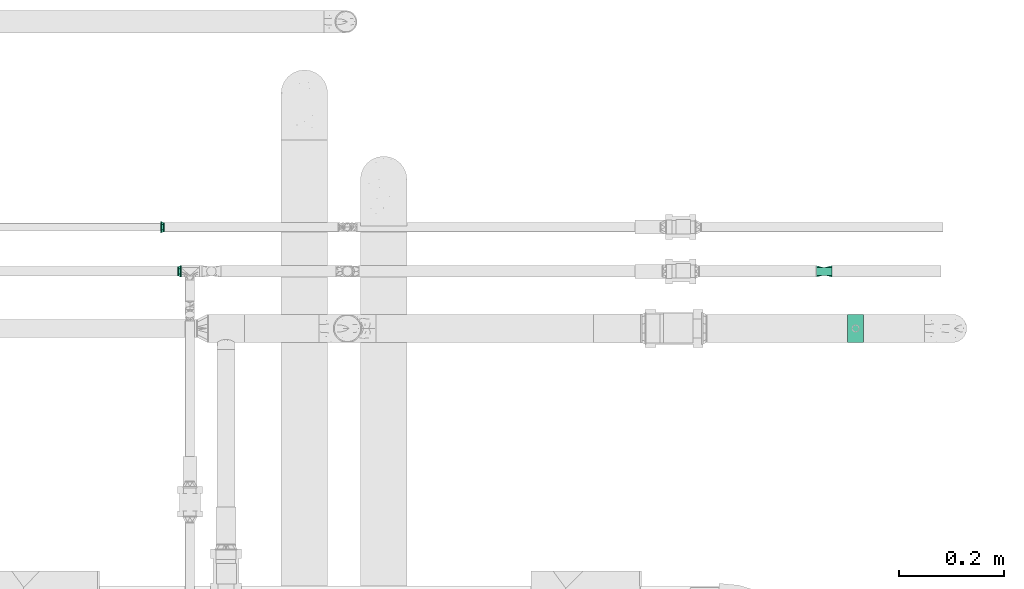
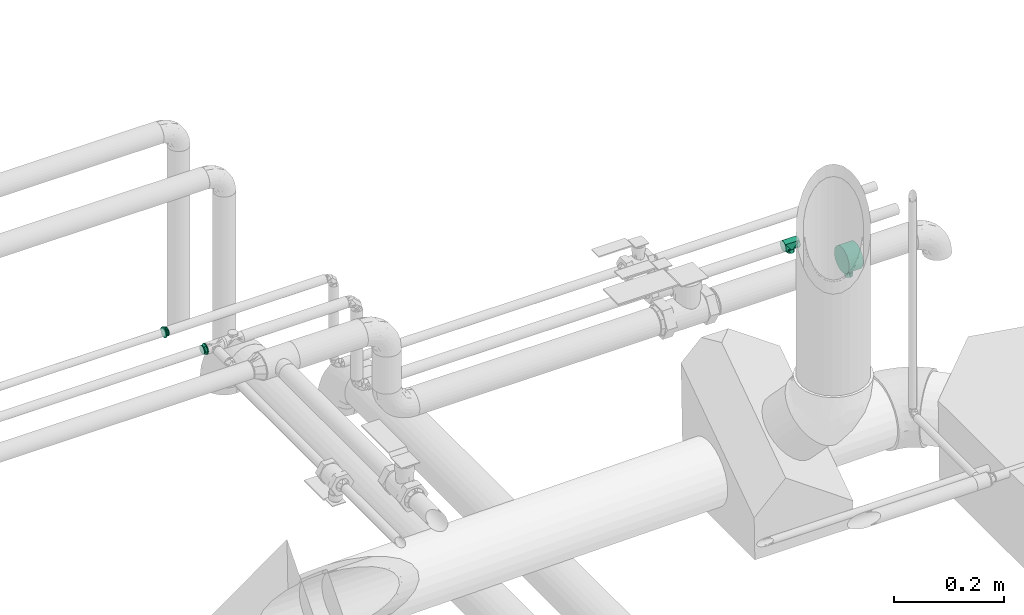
# One storey, part 152 of 156: 4 flow fittings.
"""IFC2X3 building model written with IfcOpenShell, lengths in millimetres."""

from ifc_helpers import new_model, entity, si_unit, converted_unit, derived_unit, direction, frame, origin_with_axes, place, context, subcontext, project, spatial, open_shell, surface_model, source, transform, mapped, type_object, element, save


model = new_model("IFC2X3")

# Units and contexts
model_context = context("Model", 3, precision=0.01, world=frame((0.0, 4.29681676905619e-09, 0.0)), true_north=direction((4.01073788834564e-13, 1.0)))
plan_context = context("Plan", 3, precision=0.01, world=frame((0.0, 4.29681676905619e-09, 0.0)), true_north=direction((4.01073788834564e-13, 1.0)))
body_context = subcontext(model_context, "Body", "Model", "MODEL_VIEW")
ifc_project = project(units=[converted_unit("PLANEANGLEUNIT", "DEGREE", entity("IfcPositiveLengthMeasure", 0.0174532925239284), si_unit("PLANEANGLEUNIT", "RADIAN"), dimensions=[0, 0, 0, 0, 0, 0, 0]), si_unit("AREAUNIT", "SQUARE_METRE"), si_unit("LENGTHUNIT", "METRE", prefix="MILLI"), si_unit("MASSUNIT", "GRAM", prefix="KILO"), si_unit("POWERUNIT", "WATT"), si_unit("PRESSUREUNIT", "PASCAL", prefix="KILO"), si_unit("FORCEUNIT", "NEWTON", prefix="KILO"), si_unit("ELECTRICVOLTAGEUNIT", "VOLT"), si_unit("ELECTRICCURRENTUNIT", "AMPERE"), si_unit("THERMODYNAMICTEMPERATUREUNIT", "DEGREE_CELSIUS"), si_unit("TIMEUNIT", "SECOND"), si_unit("VOLUMEUNIT", "CUBIC_METRE"), derived_unit("LINEARVELOCITYUNIT", [(si_unit("LENGTHUNIT", "METRE"), 1), (si_unit("TIMEUNIT", "SECOND"), -1)]), derived_unit("VOLUMETRICFLOWRATEUNIT", [(si_unit("VOLUMEUNIT", "CUBIC_METRE"), 1), (si_unit("TIMEUNIT", "SECOND"), -1)]), derived_unit("THERMALTRANSMITTANCEUNIT", [(si_unit("POWERUNIT", "WATT"), 1), (si_unit("THERMODYNAMICTEMPERATUREUNIT", "KELVIN"), -1), (si_unit("AREAUNIT", "SQUARE_METRE"), -1)]), derived_unit("SOUNDPRESSUREUNIT", [(si_unit("PRESSUREUNIT", "PASCAL"), 1)])], contexts=[model_context, plan_context])

# Site, building, storey
site_placement = place(None, frame((0.0, -4.29681676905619e-09, 0.0), z_axis=(0.0, 0.0, 1.0), x_axis=(1.0, 0.0, 0.0)))
site = spatial("IfcSite", under=ifc_project, at=site_placement, CompositionType="ELEMENT")
building_placement = place(site_placement, frame((0.0, 4.29681676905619e-09, 0.0), z_axis=(0.0, 0.0, 1.0), x_axis=(1.0, 0.0, 0.0)))
building = spatial("IfcBuilding", under=site, at=building_placement, Name="mc-building", CompositionType="ELEMENT")
storey_placement = place(building_placement, frame((0.0, 0.0, 205200.0), z_axis=(0.0, 0.0, 1.0), x_axis=(1.0, 0.0, 0.0)))
storey = spatial("IfcBuildingStorey", under=building, at=storey_placement, Name="Nivå D + 1,2 m", CompositionType="ELEMENT", Elevation=205200.0)

# Flow fittings
pipe_fitting_type_1 = type_object("IfcPipeFittingType", Name="magi_pipe_fe_reducer_centric_short_001", PredefinedType="TRANSITION")
shared_shape_1 = source(origin_with_axes(), body_context, "Body", "SurfaceModel", [
    surface_model("IfcShellBasedSurfaceModel", [(-2.0, 2.84701, 10.62518), (-2.0, -2.84701, 10.62518), (-2.0, 0.0, 11.0), (-2.0, 7.77817, 7.77817), (-2.0, 5.5, 9.52628), (-2.0, 9.52628, 5.5), (-2.0, 10.62518, 2.84701), (-2.0, -7.77817, 7.77817), (-2.0, -5.5, 9.52628), (-2.0, -10.62518, 2.84701), (-2.0, -9.52628, 5.5), (-2.0, -11.0, 0.0), (-2.0, 10.62518, -2.84701), (-2.0, -7.77817, -7.77817), (-2.0, 7.77817, -7.77817), (-2.0, 9.52628, -5.5), (-2.0, 5.5, -9.52628), (-2.0, 2.84701, -10.62518), (-2.0, -10.62518, -2.84701), (-2.0, -9.52628, -5.5), (-2.0, -2.84701, -10.62518), (-2.0, -5.5, -9.52628), (-2.0, 0.0, -11.0), (-2.0, 11.0, 0.0), (0.0, 2.84701, -10.62518), (0.0, 5.5, -9.52628), (0.0, 7.77817, -7.77817), (0.0, 9.52628, -5.5), (0.0, 10.62518, -2.84701), (0.0, -7.77817, -7.77817), (0.0, 2.84701, 10.62518), (0.0, -2.84701, -10.62518), (0.0, 0.0, -11.0), (0.0, -5.5, -9.52628), (0.0, -10.62518, -2.84701), (0.0, -9.52628, -5.5), (0.0, -11.0, 0.0), (0.0, 11.0, 0.0), (0.0, 10.62518, 2.84701), (0.0, 9.52628, 5.5), (0.0, 7.77817, 7.77817), (0.0, 0.0, 11.0), (0.0, 5.5, 9.52628), (0.0, -2.84701, 10.62518), (0.0, -10.62518, 2.84701), (0.0, -7.77817, 7.77817), (0.0, -9.52628, 5.5), (0.0, -5.5, 9.52628), (6.0, 4.5, -7.79423), (6.0, 0.0, -9.0), (6.0, 2.32937, -8.69333), (6.0, 8.69333, -2.32937), (6.0, 6.36396, -6.36396), (6.0, -6.36396, -6.36396), (6.0, 7.79423, -4.5), (6.0, 7.79423, 4.5), (6.0, -8.69333, -2.32937), (6.0, -4.5, -7.79423), (6.0, -2.32937, -8.69333), (6.0, -7.79423, -4.5), (6.0, 9.0, 0.0), (6.0, 8.69333, 2.32937), (6.0, -9.0, 0.0), (6.0, 0.0, 9.0), (6.0, 6.36396, 6.36396), (6.0, 4.5, 7.79423), (6.0, 2.32937, 8.69333), (6.0, -6.36396, 6.36396), (6.0, -8.69333, 2.32937), (6.0, -7.79423, 4.5), (6.0, -2.32937, 8.69333), (6.0, -4.5, 7.79423), (4.0, 0.0, 9.0), (4.0, 2.32937, 8.69333), (4.0, 4.5, 7.79423), (4.0, 6.36396, 6.36396), (4.0, -9.0, 0.0), (4.0, -8.69333, -2.32937), (4.0, 7.79423, 4.5), (4.0, -2.32937, 8.69333), (4.0, -6.36396, 6.36396), (4.0, -4.5, 7.79423), (4.0, -8.69333, 2.32937), (4.0, -7.79423, 4.5), (4.0, 8.69333, 2.32937), (4.0, 8.69333, -2.32937), (4.0, 6.36396, -6.36396), (4.0, 7.79423, -4.5), (4.0, 4.5, -7.79423), (4.0, 2.32937, -8.69333), (4.0, -4.5, -7.79423), (4.0, -6.36396, -6.36396), (4.0, -7.79423, -4.5), (4.0, 0.0, -9.0), (4.0, -2.32937, -8.69333), (4.0, 9.0, 0.0)], [open_shell([[[0, 1, 2]], [[3, 0, 4]], [[3, 5, 6]], [[1, 0, 3]], [[1, 3, 6]], [[1, 7, 8]], [[1, 6, 7]], [[7, 9, 10]], [[9, 7, 11]], [[6, 11, 7]], [[6, 12, 11]], [[13, 11, 12]], [[14, 12, 15]], [[14, 16, 17]], [[14, 17, 12]], [[13, 12, 17]], [[18, 13, 19]], [[11, 13, 18]], [[17, 20, 21]], [[21, 13, 17]], [[20, 17, 22]], [[6, 23, 12]], [[24, 25, 26]], [[24, 26, 27]], [[24, 28, 29]], [[28, 24, 27]], [[28, 30, 29]], [[24, 31, 32]], [[24, 33, 31]], [[29, 34, 35]], [[33, 24, 29]], [[29, 36, 34]], [[28, 37, 38]], [[38, 39, 40]], [[38, 40, 30]], [[41, 29, 30]], [[30, 40, 42]], [[43, 29, 41]], [[44, 45, 46]], [[45, 44, 36]], [[45, 43, 47]], [[36, 29, 45]], [[43, 45, 29]], [[30, 28, 38]], [[18, 34, 11]], [[19, 35, 18]], [[33, 13, 21]], [[19, 13, 29]], [[31, 21, 20]], [[18, 35, 34]], [[34, 36, 11]], [[31, 33, 21]], [[29, 13, 33]], [[29, 35, 19]], [[32, 31, 20]], [[20, 22, 32]], [[17, 24, 22]], [[16, 25, 17]], [[27, 14, 15]], [[16, 14, 26]], [[28, 15, 12]], [[16, 26, 25]], [[25, 24, 17]], [[37, 28, 12]], [[27, 15, 28]], [[27, 26, 14]], [[23, 37, 12]], [[22, 24, 32]], [[6, 38, 23]], [[5, 39, 6]], [[42, 3, 4]], [[5, 3, 40]], [[30, 4, 0]], [[6, 39, 38]], [[38, 37, 23]], [[30, 42, 4]], [[40, 3, 42]], [[40, 39, 5]], [[41, 30, 0]], [[0, 2, 41]], [[1, 43, 2]], [[8, 47, 1]], [[46, 7, 10]], [[8, 7, 45]], [[44, 10, 9]], [[8, 45, 47]], [[47, 43, 1]], [[36, 44, 9]], [[46, 10, 44]], [[46, 45, 7]], [[11, 36, 9]], [[2, 43, 41]], [[42, 36, 47]], [[36, 42, 25]], [[25, 33, 36]], [[25, 42, 37]], [[48, 49, 50]], [[51, 48, 52]], [[53, 48, 51]], [[51, 52, 54]], [[55, 56, 51]], [[49, 57, 58]], [[57, 49, 53]], [[53, 56, 59]], [[53, 49, 48]], [[51, 56, 53]], [[51, 60, 61]], [[62, 56, 55]], [[63, 55, 64]], [[65, 66, 63]], [[65, 63, 64]], [[67, 55, 63]], [[68, 67, 69]], [[67, 68, 62]], [[67, 70, 71]], [[67, 62, 55]], [[63, 70, 67]], [[55, 51, 61]], [[72, 73, 74]], [[72, 74, 75]], [[76, 72, 77]], [[78, 72, 75]], [[78, 77, 72]], [[79, 80, 81]], [[79, 72, 80]], [[80, 82, 83]], [[82, 80, 76]], [[72, 76, 80]], [[78, 84, 85]], [[77, 78, 85]], [[86, 85, 87]], [[85, 88, 77]], [[88, 85, 86]], [[89, 90, 88]], [[77, 91, 92]], [[77, 88, 91]], [[90, 93, 94]], [[90, 91, 88]], [[93, 90, 89]], [[85, 84, 95]], [[77, 56, 76]], [[92, 59, 77]], [[57, 91, 90]], [[92, 91, 53]], [[58, 90, 94]], [[77, 59, 56]], [[56, 62, 76]], [[58, 57, 90]], [[53, 91, 57]], [[53, 59, 92]], [[49, 58, 94]], [[94, 93, 49]], [[89, 50, 93]], [[88, 48, 89]], [[54, 86, 87]], [[88, 86, 52]], [[51, 87, 85]], [[88, 52, 48]], [[48, 50, 89]], [[60, 51, 85]], [[54, 87, 51]], [[54, 52, 86]], [[95, 60, 85]], [[93, 50, 49]], [[84, 61, 95]], [[78, 55, 84]], [[65, 75, 74]], [[78, 75, 64]], [[66, 74, 73]], [[84, 55, 61]], [[61, 60, 95]], [[66, 65, 74]], [[64, 75, 65]], [[64, 55, 78]], [[63, 66, 73]], [[73, 72, 63]], [[79, 70, 72]], [[81, 71, 79]], [[69, 80, 83]], [[81, 80, 67]], [[68, 83, 82]], [[81, 67, 71]], [[71, 70, 79]], [[62, 68, 82]], [[69, 83, 68]], [[69, 67, 80]], [[76, 62, 82]], [[72, 70, 63]], [[74, 81, 95]], [[95, 81, 90]], [[90, 88, 95]], [[90, 81, 76]], [[95, 88, 37]], [[25, 37, 88]], [[88, 90, 25]], [[90, 76, 33]], [[36, 33, 76]], [[90, 33, 25]], [[76, 81, 36]], [[47, 36, 81]], [[81, 74, 47]], [[74, 95, 42]], [[37, 42, 95]], [[74, 42, 47]]])]),
])
flow_fitting_1_placement = place(storey_placement, frame((326647.49724, 463393.4875, 4309.0), z_axis=(0.0, 0.0, 1.0), x_axis=(-1.0, 0.0, 0.0)))
element("IfcFlowFitting", 1, at=flow_fitting_1_placement, inside=storey, type_object=pipe_fitting_type_1, Name="magi_pipe_fe_reducer_centric_short_001", context=body_context, shape_type="MappedRepresentation", body=[
    mapped(shared_shape_1, transform((0.0, 0.0, 0.0), scale=1.0)),
])
pipe_fitting_type_2 = type_object("IfcPipeFittingType", Name="magi_pipe_tee_centric_90_001", PredefinedType="JUNCTION")
shared_shape_2 = source(origin_with_axes(), body_context, "Body", "SurfaceModel", [
    surface_model("IfcShellBasedSurfaceModel", [(-15.0, 0.0, -11.0), (-15.0, -2.84701, -10.62518), (-15.0, 2.84701, -10.62518), (-15.0, 5.5, -9.52628), (-15.0, 7.77817, -7.77817), (-15.0, 9.52628, -5.5), (-15.0, 10.62518, -2.84701), (-15.0, -5.5, -9.52628), (-15.0, -7.77817, -7.77817), (-15.0, -9.52628, -5.5), (-15.0, -10.62518, -2.84701), (-15.0, -11.0, 0.0), (-15.0, 11.0, 0.0), (-15.0, 10.62518, 2.84701), (-15.0, 2.84701, 10.62518), (-15.0, 9.52628, 5.5), (-15.0, 5.5, 9.52628), (-15.0, 7.77817, 7.77817), (-15.0, 0.0, 11.0), (-15.0, -9.52628, 5.5), (-15.0, -7.77817, 7.77817), (-15.0, -10.62518, 2.84701), (-15.0, -2.84701, 10.62518), (-15.0, -5.5, 9.52628), (15.0, 2.84701, -10.62518), (15.0, -2.84701, -10.62518), (15.0, 0.0, -11.0), (15.0, 7.77817, -7.77817), (15.0, 5.5, -9.52628), (15.0, 9.52628, -5.5), (15.0, 10.62518, -2.84701), (15.0, -7.77817, -7.77817), (15.0, -5.5, -9.52628), (15.0, -10.62518, -2.84701), (15.0, -9.52628, -5.5), (15.0, -11.0, 0.0), (15.0, -5.5, 9.52628), (15.0, 11.0, 0.0), (15.0, 2.84701, 10.62518), (15.0, 10.62518, 2.84701), (15.0, 5.5, 9.52628), (15.0, 9.52628, 5.5), (15.0, 7.77817, 7.77817), (15.0, 0.0, 11.0), (15.0, -10.62518, 2.84701), (15.0, -7.77817, 7.77817), (15.0, -9.52628, 5.5), (15.0, -2.84701, 10.62518), (7.5, -11.0, 0.0), (7.02176, -10.67966, 2.63531), (5.71456, -9.86946, 4.85734), (3.78399, -8.89205, 6.47545), (1.34429, -8.15825, 7.37854), (-1.34657, -8.15863, 7.37813), (-7.5, -11.0, 0.0), (-7.02203, -10.67984, 2.6346), (-5.71613, -9.87037, 4.8555), (-3.78466, -8.89233, 6.47506), (1.34429, -8.15825, -7.37854), (3.78399, -8.89205, -6.47545), (-3.78466, -8.89233, -6.47506), (-1.34657, -8.15863, -7.37813), (5.71456, -9.86946, -4.85734), (7.02176, -10.67966, -2.63531), (-5.71613, -9.87037, -4.8555), (-7.02203, -10.67984, -2.6346), (5.3033, -16.5, -5.3033), (0.0, -16.5, -7.5), (1.94114, -16.5, -7.24444), (3.75, -16.5, -6.49519), (6.49519, -16.5, -3.75), (7.24444, -16.5, -1.94114), (-5.3033, -16.5, -5.3033), (-7.5, -16.5, 0.0), (-1.94114, -16.5, -7.24444), (-3.75, -16.5, -6.49519), (-6.49519, -16.5, -3.75), (-7.24444, -16.5, -1.94114), (3.75, -16.5, 6.49519), (7.5, -16.5, 0.0), (7.24444, -16.5, 1.94114), (6.49519, -16.5, 3.75), (0.0, -16.5, 7.5), (5.3033, -16.5, 5.3033), (1.94114, -16.5, 7.24444), (-7.24444, -16.5, 1.94114), (-5.3033, -16.5, 5.3033), (-6.49519, -16.5, 3.75), (-3.75, -16.5, 6.49519), (-1.94114, -16.5, 7.24444)], [open_shell([[[0, 1, 2]], [[3, 2, 4]], [[5, 2, 1]], [[4, 2, 5]], [[6, 5, 1]], [[7, 8, 1]], [[8, 6, 1]], [[9, 10, 8]], [[11, 8, 10]], [[8, 11, 6]], [[11, 12, 6]], [[13, 12, 14]], [[15, 13, 16]], [[13, 14, 16]], [[17, 15, 16]], [[18, 14, 12]], [[19, 20, 21]], [[20, 11, 21]], [[22, 18, 23]], [[20, 23, 11]], [[23, 18, 12]], [[12, 11, 23]], [[24, 25, 26]], [[27, 24, 28]], [[25, 24, 29]], [[29, 24, 27]], [[25, 29, 30]], [[25, 31, 32]], [[25, 30, 31]], [[31, 33, 34]], [[33, 31, 35]], [[31, 36, 35]], [[31, 30, 37]], [[38, 37, 39]], [[40, 39, 41]], [[40, 38, 39]], [[40, 41, 42]], [[37, 38, 43]], [[44, 45, 46]], [[44, 35, 45]], [[36, 43, 47]], [[35, 36, 45]], [[37, 43, 36]], [[36, 31, 37]], [[35, 44, 48]], [[49, 48, 44]], [[44, 46, 49]], [[46, 45, 50]], [[36, 51, 50]], [[43, 52, 51]], [[53, 52, 17]], [[46, 50, 49]], [[54, 55, 21]], [[21, 11, 54]], [[55, 19, 21]], [[23, 56, 57]], [[56, 20, 19]], [[23, 20, 56]], [[56, 19, 55]], [[18, 57, 53]], [[45, 36, 50]], [[47, 43, 51]], [[38, 52, 43]], [[52, 38, 40]], [[42, 17, 52]], [[15, 41, 39]], [[42, 41, 17]], [[52, 40, 42]], [[13, 39, 37]], [[18, 53, 14]], [[22, 57, 18]], [[23, 57, 22]], [[13, 15, 39]], [[16, 53, 17]], [[41, 15, 17]], [[14, 53, 16]], [[37, 12, 13]], [[47, 51, 36]], [[30, 12, 37]], [[6, 30, 29]], [[29, 27, 5]], [[27, 28, 58]], [[24, 26, 58]], [[24, 58, 28]], [[4, 27, 58]], [[26, 25, 59]], [[4, 5, 27]], [[5, 6, 29]], [[6, 12, 30]], [[60, 1, 0]], [[61, 2, 3]], [[2, 61, 0]], [[61, 3, 4]], [[1, 60, 7]], [[59, 25, 32]], [[32, 62, 59]], [[58, 26, 59]], [[31, 34, 62]], [[61, 4, 58]], [[33, 35, 48]], [[62, 34, 63]], [[48, 63, 33]], [[63, 34, 33]], [[64, 7, 60]], [[64, 9, 8]], [[7, 64, 8]], [[0, 61, 60]], [[65, 10, 9]], [[10, 54, 11]], [[54, 10, 65]], [[65, 9, 64]], [[31, 62, 32]], [[66, 67, 68]], [[66, 68, 69]], [[66, 70, 71]], [[67, 66, 72]], [[73, 66, 71]], [[74, 72, 75]], [[74, 67, 72]], [[76, 73, 77]], [[73, 76, 72]], [[66, 73, 72]], [[71, 78, 73]], [[79, 80, 81]], [[81, 78, 71]], [[78, 82, 73]], [[78, 81, 83]], [[82, 78, 84]], [[85, 86, 87]], [[86, 85, 82]], [[88, 82, 89]], [[82, 88, 86]], [[73, 82, 85]], [[81, 71, 79]], [[54, 73, 85]], [[55, 87, 86]], [[85, 87, 54]], [[86, 88, 55]], [[54, 87, 55]], [[56, 55, 89]], [[53, 57, 51]], [[56, 50, 57]], [[89, 82, 56]], [[88, 89, 55]], [[84, 50, 82]], [[78, 49, 84]], [[49, 83, 81]], [[78, 83, 49]], [[48, 81, 80]], [[51, 52, 53]], [[50, 51, 57]], [[81, 48, 49]], [[49, 50, 84]], [[48, 80, 79]], [[56, 82, 50]], [[48, 79, 71]], [[63, 70, 66]], [[71, 70, 48]], [[66, 69, 63]], [[48, 70, 63]], [[62, 63, 68]], [[58, 59, 61]], [[62, 60, 59]], [[68, 67, 62]], [[69, 68, 63]], [[74, 64, 67]], [[75, 65, 74]], [[65, 72, 76]], [[75, 72, 65]], [[54, 76, 77]], [[60, 61, 59]], [[64, 60, 62]], [[76, 54, 65]], [[65, 64, 74]], [[54, 77, 73]], [[62, 67, 64]]])]),
])
flow_fitting_2_placement = place(storey_placement, frame((327875.47035, 463393.4875, 4112.0), z_axis=(0.0, 1.0, 0.0), x_axis=(-1.0, 0.0, 0.0)))
element("IfcFlowFitting", 2, at=flow_fitting_2_placement, inside=storey, type_object=pipe_fitting_type_2, Name="magi_pipe_tee_centric_90_001", context=body_context, shape_type="MappedRepresentation", body=[
    mapped(shared_shape_2, transform((0.0, 0.0, 0.0), scale=1.0)),
])
shared_shape_3 = source(origin_with_axes(), body_context, "Body", "SurfaceModel", [
    surface_model("IfcShellBasedSurfaceModel", [(-15.0, 0.0, -27.0), (-15.0, -6.98811, -26.08), (-15.0, 6.98811, -26.08), (-15.0, 13.5, -23.38269), (-15.0, 23.38269, -13.5), (-15.0, -27.0, 0.0), (-15.0, -26.08, 6.98811), (-15.0, 19.09188, -19.09188), (-15.0, -13.5, -23.38269), (-15.0, -19.09188, -19.09188), (-15.0, -26.08, -6.98811), (-15.0, -23.38269, -13.5), (-15.0, 27.0, 0.0), (-15.0, 26.08, -6.98811), (-15.0, 23.38269, 13.5), (-15.0, 26.08, 6.98811), (-15.0, -23.38269, 13.5), (-15.0, 0.0, 27.0), (-15.0, 13.5, 23.38269), (-15.0, 19.09188, 19.09188), (-15.0, 6.98811, 26.08), (-15.0, -19.09188, 19.09188), (-15.0, -6.98811, 26.08), (-15.0, -13.5, 23.38269), (15.0, 6.98811, -26.08), (15.0, -6.98811, -26.08), (15.0, 0.0, -27.0), (15.0, 23.38269, -13.5), (15.0, 13.5, -23.38269), (15.0, -26.08, 6.98811), (15.0, 19.09188, -19.09188), (15.0, -19.09188, -19.09188), (15.0, -13.5, -23.38269), (15.0, -27.0, 0.0), (15.0, -23.38269, -13.5), (15.0, -26.08, -6.98811), (15.0, 26.08, -6.98811), (15.0, 27.0, 0.0), (15.0, 26.08, 6.98811), (15.0, 23.38269, 13.5), (15.0, -23.38269, 13.5), (15.0, 13.5, 23.38269), (15.0, 0.0, 27.0), (15.0, 19.09188, 19.09188), (15.0, 6.98811, 26.08), (15.0, -19.09188, 19.09188), (15.0, -13.5, 23.38269), (15.0, -6.98811, 26.08), (7.5, -27.0, 0.0), (7.0445, -26.87703, 2.57391), (5.74218, -26.56544, 4.82467), (15.0, -26.54, 3.49406), (1.30693, -25.97033, 7.38525), (3.75717, -26.20813, 6.49105), (-7.04468, -26.87708, 2.57341), (-15.0, -26.54, 3.49406), (-7.5, -27.0, 0.0), (-5.74427, -26.56589, 4.82218), (-3.75776, -26.20822, 6.4907), (-1.30888, -25.97043, 7.38491), (5.74218, -26.56544, -4.82467), (15.0, -26.54, -3.49406), (7.0445, -26.87703, -2.57391), (-7.04468, -26.87708, -2.57341), (-15.0, -26.54, -3.49406), (1.30693, -25.97033, -7.38525), (3.75717, -26.20813, -6.49105), (-1.30888, -25.97043, -7.38491), (-3.75776, -26.20822, -6.4907), (-5.74427, -26.56589, -4.82218), (5.3033, -40.5, -5.3033), (0.0, -40.5, -7.5), (1.94114, -40.5, -7.24444), (3.75, -40.5, -6.49519), (6.49519, -40.5, -3.75), (7.24444, -40.5, -1.94114), (-5.3033, -40.5, -5.3033), (-7.5, -40.5, 0.0), (-1.94114, -40.5, -7.24444), (-3.75, -40.5, -6.49519), (-6.49519, -40.5, -3.75), (-7.24444, -40.5, -1.94114), (3.75, -40.5, 6.49519), (7.5, -40.5, 0.0), (7.24444, -40.5, 1.94114), (6.49519, -40.5, 3.75), (0.0, -40.5, 7.5), (5.3033, -40.5, 5.3033), (1.94114, -40.5, 7.24444), (-7.24444, -40.5, 1.94114), (-5.3033, -40.5, 5.3033), (-6.49519, -40.5, 3.75), (-3.75, -40.5, 6.49519), (-1.94114, -40.5, 7.24444)], [open_shell([[[0, 1, 2]], [[3, 2, 4]], [[2, 5, 6]], [[7, 3, 4]], [[2, 6, 4]], [[8, 9, 1]], [[5, 1, 9]], [[10, 5, 11]], [[9, 11, 5]], [[5, 2, 1]], [[12, 13, 4]], [[14, 15, 12]], [[4, 16, 14]], [[17, 18, 14]], [[19, 14, 18]], [[18, 17, 20]], [[16, 21, 14]], [[16, 4, 6]], [[22, 17, 23]], [[21, 23, 17]], [[14, 21, 17]], [[12, 4, 14]], [[24, 25, 26]], [[27, 24, 28]], [[24, 29, 25]], [[27, 28, 30]], [[27, 29, 24]], [[25, 31, 32]], [[31, 25, 33]], [[34, 33, 35]], [[33, 34, 31]], [[33, 25, 29]], [[27, 36, 37]], [[37, 38, 39]], [[39, 40, 27]], [[39, 41, 42]], [[41, 39, 43]], [[44, 42, 41]], [[39, 45, 40]], [[29, 27, 40]], [[46, 42, 47]], [[42, 46, 45]], [[42, 45, 39]], [[39, 27, 37]], [[48, 33, 49]], [[50, 49, 51]], [[51, 29, 50]], [[29, 40, 52]], [[29, 52, 53]], [[16, 52, 40]], [[16, 40, 45]], [[29, 53, 50]], [[5, 54, 55]], [[5, 56, 54]], [[57, 6, 55]], [[58, 59, 6]], [[59, 16, 6]], [[59, 52, 16]], [[45, 21, 16]], [[58, 6, 57]], [[45, 46, 21]], [[23, 46, 47]], [[22, 47, 42]], [[49, 33, 51]], [[20, 42, 44]], [[15, 39, 38]], [[19, 41, 43]], [[39, 14, 43]], [[41, 20, 44]], [[37, 12, 38]], [[57, 55, 54]], [[17, 22, 42]], [[23, 47, 22]], [[42, 20, 17]], [[20, 41, 18]], [[18, 41, 19]], [[14, 19, 43]], [[15, 14, 39]], [[38, 12, 15]], [[46, 23, 21]], [[36, 12, 37]], [[13, 36, 27]], [[27, 30, 4]], [[3, 28, 24]], [[60, 61, 62]], [[25, 32, 8]], [[24, 26, 2]], [[30, 28, 7]], [[26, 25, 0]], [[7, 4, 30]], [[4, 13, 27]], [[13, 12, 36]], [[63, 5, 64]], [[0, 25, 1]], [[2, 3, 24]], [[26, 0, 2]], [[3, 7, 28]], [[1, 25, 8]], [[32, 9, 8]], [[34, 35, 65]], [[11, 34, 65]], [[34, 11, 31]], [[35, 66, 65]], [[33, 48, 62]], [[66, 35, 60]], [[35, 61, 60]], [[61, 33, 62]], [[31, 11, 9]], [[11, 65, 67]], [[10, 11, 67]], [[67, 68, 10]], [[64, 69, 63]], [[63, 56, 5]], [[10, 69, 64]], [[69, 10, 68]], [[31, 9, 32]], [[70, 71, 72]], [[70, 72, 73]], [[70, 74, 75]], [[71, 70, 76]], [[77, 70, 75]], [[78, 76, 79]], [[78, 71, 76]], [[80, 77, 81]], [[77, 80, 76]], [[70, 77, 76]], [[75, 82, 77]], [[83, 84, 85]], [[85, 82, 75]], [[82, 86, 77]], [[82, 85, 87]], [[86, 82, 88]], [[89, 90, 91]], [[90, 89, 86]], [[92, 86, 93]], [[86, 92, 90]], [[77, 86, 89]], [[85, 75, 83]], [[56, 77, 89]], [[54, 91, 90]], [[89, 91, 54]], [[90, 92, 57]], [[56, 89, 54]], [[54, 90, 57]], [[59, 58, 86]], [[93, 58, 57]], [[86, 58, 93]], [[93, 57, 92]], [[88, 53, 86]], [[82, 50, 88]], [[49, 87, 85]], [[82, 87, 50]], [[49, 85, 84]], [[88, 50, 53]], [[53, 52, 86]], [[84, 48, 49]], [[49, 50, 87]], [[84, 83, 48]], [[86, 52, 59]], [[48, 83, 75]], [[62, 74, 70]], [[75, 74, 62]], [[60, 70, 73]], [[48, 75, 62]], [[62, 70, 60]], [[65, 66, 71]], [[72, 66, 60]], [[71, 66, 72]], [[72, 60, 73]], [[68, 71, 78]], [[79, 69, 78]], [[63, 76, 80]], [[79, 76, 69]], [[63, 80, 81]], [[78, 69, 68]], [[68, 67, 71]], [[81, 56, 63]], [[63, 69, 76]], [[81, 77, 56]], [[71, 67, 65]]])]),
])
flow_fitting_3_placement = place(storey_placement, frame((327935.47035, 463284.5375, 4128.0), z_axis=(0.0, 1.0, 0.0), x_axis=(-1.0, 0.0, 0.0)))
element("IfcFlowFitting", 3, at=flow_fitting_3_placement, inside=storey, type_object=pipe_fitting_type_2, Name="magi_pipe_tee_centric_90_001", context=body_context, shape_type="MappedRepresentation", body=[
    mapped(shared_shape_3, transform((0.0, 0.0, 0.0), scale=1.0)),
])
shared_shape_4 = source(origin_with_axes(), body_context, "Body", "SurfaceModel", [
    surface_model("IfcShellBasedSurfaceModel", [(-2.0, 7.56604, 7.56604), (-2.0, 9.26647, 5.35), (-2.0, 10.33541, 2.76936), (-2.0, -2.76936, 10.33541), (-2.0, -7.56604, 7.56604), (-2.0, -5.35, 9.26647), (-2.0, -10.33541, 2.76936), (-2.0, -10.33541, -2.76936), (-2.0, -10.7, 0.0), (-2.0, 7.56604, -7.56604), (-2.0, 10.33541, -2.76936), (-2.0, 9.26647, -5.35), (-2.0, -7.56604, -7.56604), (-2.0, -9.26647, -5.35), (-2.0, -5.35, -9.26647), (-2.0, 0.0, -10.7), (-2.0, -2.76936, -10.33541), (-2.0, 2.76936, -10.33541), (-2.0, 10.7, 0.0), (0.0, 5.35, -9.26647), (0.0, 0.0, -10.7), (0.0, 2.76936, -10.33541), (0.0, 10.33541, -2.76936), (0.0, 7.56604, -7.56604), (0.0, 9.26647, -5.35), (0.0, -5.35, -9.26647), (0.0, -2.76936, -10.33541), (0.0, -7.56604, -7.56604), (0.0, -10.33541, -2.76936), (0.0, -9.26647, -5.35), (0.0, 10.33541, 2.76936), (0.0, 9.26647, 5.35), (0.0, 7.56604, 7.56604), (0.0, 2.76936, 10.33541), (0.0, 5.35, 9.26647), (0.0, -7.56604, 7.56604), (0.0, -2.76936, 10.33541), (0.0, -5.35, 9.26647), (0.0, -10.7, 0.0), (-2.0, 5.35, -9.26647), (0.0, 10.7, 0.0), (-2.0, 5.35, 9.26647), (-2.0, 2.76936, 10.33541), (0.0, 0.0, 10.7), (-2.0, 0.0, 10.7), (0.0, -9.26647, 5.35), (-2.0, -9.26647, 5.35), (0.0, -10.33541, 2.76936), (5.4, 8.69333, -2.32937), (5.4, 2.32937, -8.69333), (5.4, 4.5, -7.79423), (5.4, 6.36396, -6.36396), (5.4, -8.69333, -2.32937), (5.4, 7.79423, -4.5), (5.4, 7.79423, 4.5), (5.4, 0.0, -9.0), (5.4, -4.5, -7.79423), (5.4, -2.32937, -8.69333), (5.4, -6.36396, -6.36396), (5.4, -7.79423, -4.5), (5.4, 9.0, 0.0), (5.4, 8.69333, 2.32937), (5.4, -9.0, 0.0), (5.4, 0.0, 9.0), (5.4, 6.36396, 6.36396), (5.4, 4.5, 7.79423), (5.4, 2.32937, 8.69333), (5.4, -6.36396, 6.36396), (5.4, -8.69333, 2.32937), (5.4, -7.79423, 4.5), (5.4, -2.32937, 8.69333), (5.4, -4.5, 7.79423), (3.4, 0.0, 9.0), (3.4, 2.32937, 8.69333), (3.4, 4.5, 7.79423), (3.4, 6.36396, 6.36396), (3.4, 7.79423, 4.5), (3.4, -9.0, 0.0), (3.4, -8.69333, -2.32937), (3.4, -2.32937, 8.69333), (3.4, -6.36396, 6.36396), (3.4, -4.5, 7.79423), (3.4, -8.69333, 2.32937), (3.4, -7.79423, 4.5), (3.4, 8.69333, 2.32937), (3.4, 9.0, 0.0), (3.4, 2.32937, -8.69333), (3.4, 8.69333, -2.32937), (3.4, 6.36396, -6.36396), (3.4, 7.79423, -4.5), (3.4, 4.5, -7.79423), (3.4, -4.5, -7.79423), (3.4, -6.36396, -6.36396), (3.4, -7.79423, -4.5), (3.4, 0.0, -9.0), (3.4, -2.32937, -8.69333)], [open_shell([[[0, 1, 2]], [[3, 4, 5]], [[6, 7, 8]], [[9, 10, 11]], [[7, 12, 13]], [[12, 7, 14]], [[14, 15, 16]], [[17, 15, 14]], [[10, 2, 18]], [[19, 20, 21]], [[22, 19, 23]], [[22, 23, 24]], [[20, 25, 26]], [[20, 19, 25]], [[27, 28, 29]], [[28, 27, 25]], [[30, 31, 32]], [[33, 32, 34]], [[35, 36, 37]], [[7, 28, 8]], [[13, 29, 7]], [[25, 12, 14]], [[13, 12, 27]], [[26, 14, 16]], [[7, 29, 28]], [[28, 38, 8]], [[26, 25, 14]], [[27, 12, 25]], [[27, 29, 13]], [[20, 26, 16]], [[16, 15, 20]], [[17, 21, 15]], [[39, 19, 17]], [[24, 9, 11]], [[39, 9, 23]], [[22, 11, 10]], [[39, 23, 19]], [[19, 21, 17]], [[40, 22, 10]], [[24, 11, 22]], [[24, 23, 9]], [[18, 40, 10]], [[15, 21, 20]], [[2, 30, 18]], [[1, 31, 2]], [[34, 0, 41]], [[1, 0, 32]], [[33, 41, 42]], [[2, 31, 30]], [[30, 40, 18]], [[33, 34, 41]], [[32, 0, 34]], [[32, 31, 1]], [[43, 33, 42]], [[42, 44, 43]], [[3, 36, 44]], [[5, 37, 3]], [[45, 4, 46]], [[5, 4, 35]], [[47, 46, 6]], [[5, 35, 37]], [[37, 36, 3]], [[38, 47, 6]], [[45, 46, 47]], [[45, 35, 4]], [[8, 38, 6]], [[44, 36, 43]], [[34, 38, 37]], [[2, 44, 42]], [[0, 42, 41]], [[0, 2, 42]], [[44, 2, 46]], [[4, 3, 46]], [[46, 3, 44]], [[6, 46, 7]], [[46, 2, 10]], [[7, 46, 10]], [[7, 9, 39]], [[10, 9, 7]], [[14, 39, 17]], [[14, 7, 39]], [[25, 19, 22]], [[45, 25, 22]], [[25, 45, 28]], [[30, 22, 40]], [[22, 32, 45]], [[33, 43, 32]], [[45, 32, 43]], [[28, 47, 38]], [[45, 47, 28]], [[36, 35, 45]], [[43, 36, 45]], [[22, 30, 32]], [[38, 34, 19]], [[19, 25, 38]], [[19, 34, 40]], [[48, 49, 50]], [[48, 50, 51]], [[49, 48, 52]], [[48, 51, 53]], [[54, 52, 48]], [[55, 56, 57]], [[55, 49, 56]], [[58, 52, 59]], [[56, 49, 58]], [[49, 52, 58]], [[48, 60, 61]], [[62, 52, 54]], [[63, 54, 64]], [[65, 66, 63]], [[65, 63, 64]], [[67, 54, 63]], [[68, 67, 69]], [[67, 68, 62]], [[67, 70, 71]], [[67, 62, 54]], [[63, 70, 67]], [[54, 48, 61]], [[72, 73, 74]], [[72, 74, 75]], [[72, 76, 77]], [[76, 72, 75]], [[78, 77, 76]], [[79, 80, 81]], [[79, 72, 80]], [[80, 82, 83]], [[82, 80, 77]], [[72, 77, 80]], [[76, 84, 85]], [[86, 85, 87]], [[88, 87, 89]], [[90, 86, 87]], [[90, 87, 88]], [[85, 86, 91]], [[78, 92, 93]], [[78, 85, 92]], [[91, 94, 95]], [[91, 92, 85]], [[94, 91, 86]], [[85, 78, 76]], [[78, 52, 77]], [[93, 59, 78]], [[56, 92, 91]], [[93, 92, 58]], [[57, 91, 95]], [[78, 59, 52]], [[52, 62, 77]], [[57, 56, 91]], [[58, 92, 56]], [[58, 59, 93]], [[55, 57, 95]], [[95, 94, 55]], [[86, 49, 94]], [[90, 50, 86]], [[53, 88, 89]], [[90, 88, 51]], [[48, 89, 87]], [[90, 51, 50]], [[50, 49, 86]], [[60, 48, 87]], [[53, 89, 48]], [[53, 51, 88]], [[85, 60, 87]], [[94, 49, 55]], [[84, 61, 85]], [[76, 54, 84]], [[65, 75, 74]], [[76, 75, 64]], [[66, 74, 73]], [[84, 54, 61]], [[61, 60, 85]], [[66, 65, 74]], [[64, 75, 65]], [[64, 54, 76]], [[63, 66, 73]], [[73, 72, 63]], [[79, 70, 72]], [[81, 71, 79]], [[69, 80, 83]], [[81, 80, 67]], [[68, 83, 82]], [[81, 67, 71]], [[71, 70, 79]], [[62, 68, 82]], [[69, 83, 68]], [[69, 67, 80]], [[77, 62, 82]], [[72, 70, 63]], [[74, 81, 85]], [[85, 81, 91]], [[91, 90, 85]], [[91, 81, 77]], [[85, 90, 40]], [[19, 40, 90]], [[90, 91, 19]], [[91, 77, 25]], [[38, 25, 77]], [[91, 25, 19]], [[77, 81, 38]], [[37, 38, 81]], [[81, 74, 37]], [[74, 85, 34]], [[40, 34, 85]], [[74, 34, 37]]])]),
])
flow_fitting_4_placement = place(storey_placement, frame((326611.51226, 463477.7375, 4308.0), z_axis=(0.0, 0.0, 1.0), x_axis=(1.0, 0.0, 0.0)))
element("IfcFlowFitting", 4, at=flow_fitting_4_placement, inside=storey, type_object=pipe_fitting_type_1, Name="magi_pipe_fe_reducer_centric_short_001", context=body_context, shape_type="MappedRepresentation", body=[
    mapped(shared_shape_4, transform((0.0, 0.0, 0.0), scale=1.0)),
])

save(model, "model.ifc")
